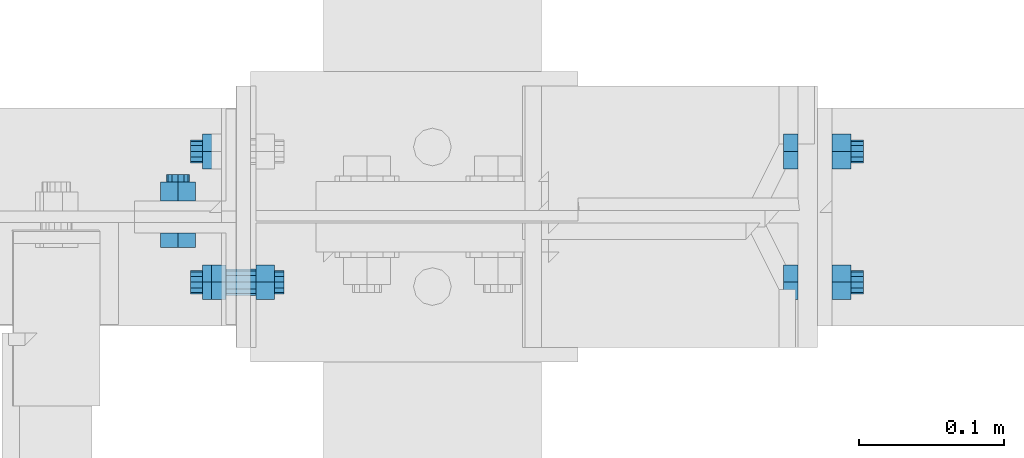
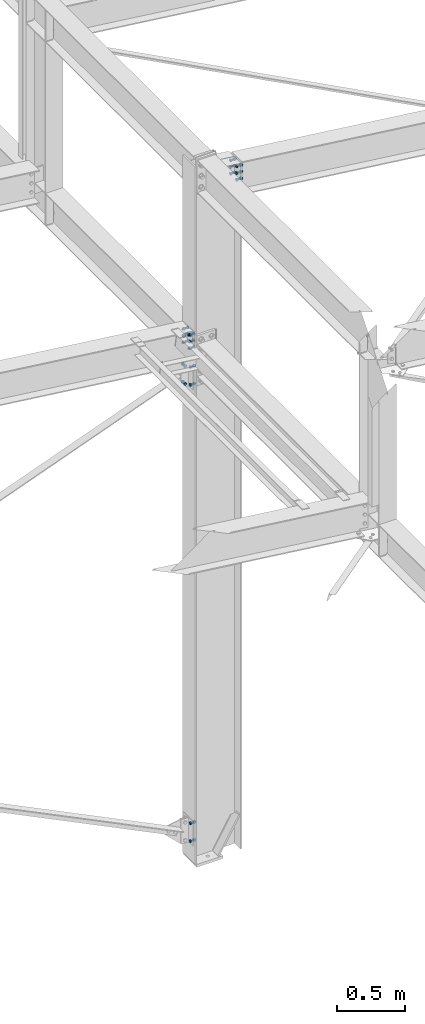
# One storey, part 130 of 3134: 5 mechanical fasteners, 4 elements without a shape of their own.
"""IFC2X3 building model written with IfcOpenShell, lengths in millimetres."""

from ifc_helpers import new_model, si_unit, frame, origin_with_axes, place, context, subcontext, project, spatial, faceted_brep, source, transform, mapped, material, type_object, element, aggregate, save


model = new_model("IFC2X3")

# Units and contexts
model_context = context("Model", 3, precision=1e-05, world=origin_with_axes())
body_context = subcontext(model_context, "Body", "Model", "MODEL_VIEW")
ifc_project = project(units=[si_unit("LENGTHUNIT", "METRE", prefix="MILLI"), si_unit("AREAUNIT", "SQUARE_METRE"), si_unit("VOLUMEUNIT", "CUBIC_METRE"), si_unit("MASSUNIT", "GRAM", prefix="KILO"), si_unit("TIMEUNIT", "SECOND"), si_unit("PLANEANGLEUNIT", "RADIAN"), si_unit("SOLIDANGLEUNIT", "STERADIAN"), si_unit("THERMODYNAMICTEMPERATUREUNIT", "DEGREE_CELSIUS"), si_unit("LUMINOUSINTENSITYUNIT", "LUMEN")], contexts=[model_context])

# Site, building, storey
site_placement = place(None, origin_with_axes())
site = spatial("IfcSite", under=ifc_project, at=site_placement, CompositionType="ELEMENT")
building_placement = place(site_placement, origin_with_axes())
building = spatial("IfcBuilding", under=site, at=building_placement, Name="Undefined", CompositionType="ELEMENT")
storey_placement = place(building_placement, origin_with_axes())
storey = spatial("IfcBuildingStorey", under=building, at=storey_placement, Name="Undefined", CompositionType="ELEMENT", Elevation=0.0)

# Assembly, mechanical fasteners
assembly_1_placement = place(storey_placement, origin_with_axes())
assembly_1 = element("IfcElementAssembly", 1, at=assembly_1_placement, inside=storey, Name="IPE400", AssemblyPlace="NOTDEFINED", PredefinedType="RIGID_FRAME")
ifc_material = material(Name="8.8")
mechanical_fastener_type = type_object("IfcMechanicalFastenerType", Name="Bolt assembly")
shared_shape_1 = source(origin_with_axes(), body_context, "Body", "Brep", [
    faceted_brep([(13.856406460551, -33.499999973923, 0.0), (6.92820323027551, -33.499999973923, 12.0), (-6.92820323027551, -33.499999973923, 12.0), (-13.856406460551, -33.499999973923, 1.69692038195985e-15), (-6.92820323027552, -33.499999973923, -12.0), (6.9282032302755, -33.499999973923, -12.0), (6.9282032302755, -23.499999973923, -12.0), (-6.92820323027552, -23.499999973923, -12.0), (-13.856406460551, -23.499999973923, 1.69692038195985e-15), (-6.92820323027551, -23.499999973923, 12.0), (6.92820323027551, -23.499999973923, 12.0), (13.856406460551, -23.499999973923, 0.0), (8.0, -23.499999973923, 0.0), (6.92820323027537, -23.499999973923, 4.00000000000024), (3.99999999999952, -23.499999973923, 6.92820323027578), (-8.29068785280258e-13, -23.499999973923, 8.0), (-4.00000000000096, -23.499999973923, 6.92820323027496), (-6.9282032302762, -23.499999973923, 3.99999999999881), (-8.0, -23.499999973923, -1.65813757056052e-12), (-6.92820323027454, -23.499999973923, -4.00000000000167), (-3.99999999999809, -23.499999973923, -6.92820323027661), (2.47832457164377e-12, -23.499999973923, -8.0), (4.00000000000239, -23.499999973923, -6.92820323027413), (6.92820323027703, -23.499999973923, -3.99999999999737), (6.92820323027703, 21.500000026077, -3.99999999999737), (4.00000000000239, 21.500000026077, -6.92820323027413), (2.47832457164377e-12, 21.500000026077, -8.0), (-3.99999999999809, 21.500000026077, -6.92820323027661), (-6.92820323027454, 21.500000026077, -4.00000000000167), (-8.0, 21.500000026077, -1.65813757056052e-12), (-6.9282032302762, 21.500000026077, 3.99999999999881), (-4.00000000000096, 21.500000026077, 6.92820323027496), (-8.29068785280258e-13, 21.500000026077, 8.0), (3.99999999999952, 21.500000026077, 6.92820323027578), (6.92820323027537, 21.500000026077, 4.00000000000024), (8.0, 21.500000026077, 0.0), (13.856406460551, 0.0, 0.0), (6.92820323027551, 0.0, 12.0), (-6.92820323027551, 0.0, 12.0), (-13.856406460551, 0.0, 1.69692038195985e-15), (-6.92820323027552, 0.0, -12.0), (6.9282032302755, 0.0, -12.0), (6.9282032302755, 12.9999996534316, -12.0), (-6.92820323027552, 12.9999996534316, -12.0), (-13.856406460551, 12.9999996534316, 1.69692038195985e-15), (-6.92820323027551, 12.9999996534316, 12.0), (6.92820323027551, 12.9999996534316, 12.0), (13.856406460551, 12.9999996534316, 0.0)], [[[0, 1, 2, 3, 4, 5]], [[6, 7, 8, 9, 10, 11]], [[0, 11, 10, 1]], [[1, 10, 9, 2]], [[2, 9, 8, 3]], [[3, 8, 7, 4]], [[4, 7, 6, 5]], [[5, 6, 11, 0]], [[12, 13, 14, 15, 16, 17, 18, 19, 20, 21, 22, 23]], [[24, 25, 26, 27, 28, 29, 30, 31, 32, 33, 34, 35]], [[12, 35, 34, 13]], [[13, 34, 33, 14]], [[14, 33, 32, 15]], [[15, 32, 31, 16]], [[16, 31, 30, 17]], [[17, 30, 29, 18]], [[18, 29, 28, 19]], [[19, 28, 27, 20]], [[20, 27, 26, 21]], [[21, 26, 25, 22]], [[22, 25, 24, 23]], [[23, 24, 35, 12]], [[36, 37, 38, 39, 40, 41]], [[42, 43, 44, 45, 46, 47]], [[36, 47, 46, 37]], [[37, 46, 45, 38]], [[38, 45, 44, 39]], [[39, 44, 43, 40]], [[40, 43, 42, 41]], [[41, 42, 47, 36]]]),
    faceted_brep([(9.0, -10.1000003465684, 0.0), (7.79422863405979, -10.1000003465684, 4.50000000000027), (4.49999999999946, -10.1000003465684, 7.79422863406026), (-9.3270238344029e-13, -10.1000003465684, 9.0), (-4.50000000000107, -10.1000003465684, 7.79422863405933), (-7.79422863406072, -10.1000003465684, 4.49999999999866), (-9.0, -10.1000003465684, -1.86540476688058e-12), (-7.79422863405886, -10.1000003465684, -4.50000000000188), (-4.49999999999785, -10.1000003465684, -7.79422863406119), (2.78811514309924e-12, -10.1000003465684, -9.0), (4.50000000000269, -10.1000003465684, -7.7942286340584), (7.79422863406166, -10.1000003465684, -4.49999999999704), (7.79422863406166, -3.46568413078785e-07, -4.49999999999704), (4.50000000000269, -3.46568413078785e-07, -7.7942286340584), (2.78811514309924e-12, -3.46568413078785e-07, -9.0), (-4.49999999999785, -3.46568413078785e-07, -7.79422863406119), (-7.79422863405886, -3.46568413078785e-07, -4.50000000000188), (-9.0, -3.46568413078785e-07, -1.86540476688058e-12), (-7.79422863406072, -3.46568413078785e-07, 4.49999999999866), (-4.50000000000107, -3.46568413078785e-07, 7.79422863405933), (-9.3270238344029e-13, -3.46568413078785e-07, 9.0), (4.49999999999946, -3.46568413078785e-07, 7.79422863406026), (7.79422863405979, -3.46568413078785e-07, 4.50000000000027), (9.0, -3.46568413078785e-07, 0.0), (9.0, -23.399999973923, 0.0), (7.79422863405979, -23.399999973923, 4.50000000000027), (4.49999999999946, -23.399999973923, 7.79422863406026), (-9.3270238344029e-13, -23.399999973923, 9.0), (-4.50000000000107, -23.399999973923, 7.79422863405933), (-7.79422863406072, -23.399999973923, 4.49999999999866), (-9.0, -23.399999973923, -1.86540476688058e-12), (-7.79422863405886, -23.399999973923, -4.50000000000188), (-4.49999999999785, -23.399999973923, -7.79422863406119), (2.78811514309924e-12, -23.399999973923, -9.0), (4.50000000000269, -23.399999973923, -7.7942286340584), (7.79422863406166, -23.399999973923, -4.49999999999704), (7.79422863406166, -9.89999997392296, -4.49999999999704), (4.50000000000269, -9.89999997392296, -7.7942286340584), (2.78811514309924e-12, -9.89999997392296, -9.0), (-4.49999999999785, -9.89999997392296, -7.79422863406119), (-7.79422863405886, -9.89999997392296, -4.50000000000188), (-9.0, -9.89999997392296, -1.86540476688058e-12), (-7.79422863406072, -9.89999997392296, 4.49999999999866), (-4.50000000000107, -9.89999997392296, 7.79422863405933), (-9.3270238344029e-13, -9.89999997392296, 9.0), (4.49999999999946, -9.89999997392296, 7.79422863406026), (7.79422863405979, -9.89999997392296, 4.50000000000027), (9.0, -9.89999997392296, 0.0)], [[[0, 1, 2, 3, 4, 5, 6, 7, 8, 9, 10, 11]], [[12, 13, 14, 15, 16, 17, 18, 19, 20, 21, 22, 23]], [[0, 23, 22, 1]], [[1, 22, 21, 2]], [[2, 21, 20, 3]], [[3, 20, 19, 4]], [[4, 19, 18, 5]], [[5, 18, 17, 6]], [[6, 17, 16, 7]], [[7, 16, 15, 8]], [[8, 15, 14, 9]], [[9, 14, 13, 10]], [[10, 13, 12, 11]], [[11, 12, 23, 0]], [[24, 25, 26, 27, 28, 29, 30, 31, 32, 33, 34, 35]], [[36, 37, 38, 39, 40, 41, 42, 43, 44, 45, 46, 47]], [[24, 47, 46, 25]], [[25, 46, 45, 26]], [[26, 45, 44, 27]], [[27, 44, 43, 28]], [[28, 43, 42, 29]], [[29, 42, 41, 30]], [[30, 41, 40, 31]], [[31, 40, 39, 32]], [[32, 39, 38, 33]], [[33, 38, 37, 34]], [[34, 37, 36, 35]], [[35, 36, 47, 24]]]),
])
mechanical_fastener_1_placement = place(assembly_1_placement, frame((55730.0000000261, 7650.0, 4360.7105303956), z_axis=(0.0, 1.0, 0.0), x_axis=(0.0, 0.0, -1.0)))
mechanical_fastener_1 = element("IfcMechanicalFastener", 2, at=mechanical_fastener_1_placement, type_object=mechanical_fastener_type, material=ifc_material, Name="Bolt assembly", NominalDiameter=16.0, NominalLength=45.0, context=body_context, shape_type="MappedRepresentation", body=[
    mapped(shared_shape_1, transform((0.0, 0.0, -45.0))),
    mapped(shared_shape_1, transform((60.0, 0.0, -45.0))),
    mapped(shared_shape_1, transform((120.0, 0.0, -45.0))),
    mapped(shared_shape_1, transform((0.0, 0.0, 45.0))),
    mapped(shared_shape_1, transform((60.0, 0.0, 45.0))),
    mapped(shared_shape_1, transform((120.0, 0.0, 45.0))),
])
mechanical_fastener_2_placement = place(assembly_1_placement, frame((56150.0000003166, 7650.0, 5615.41113578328), z_axis=(0.0, 1.0, 0.0), x_axis=(0.0, 0.0, 1.0)))
mechanical_fastener_2 = element("IfcMechanicalFastener", 3, at=mechanical_fastener_2_placement, type_object=mechanical_fastener_type, material=ifc_material, Name="Bolt assembly", NominalDiameter=16.0, NominalLength=45.0, context=body_context, shape_type="MappedRepresentation", body=[
    mapped(shared_shape_1, transform((0.0, 0.0, -45.0))),
    mapped(shared_shape_1, transform((60.0, 0.0, -45.0))),
    mapped(shared_shape_1, transform((120.0, 0.0, -45.0))),
    mapped(shared_shape_1, transform((0.0, 0.0, 45.0))),
    mapped(shared_shape_1, transform((60.0, 0.0, 45.0))),
    mapped(shared_shape_1, transform((120.0, 0.0, 45.0))),
])
aggregate(assembly_1, [mechanical_fastener_1, mechanical_fastener_2])

# Assembly, mechanical fastener
assembly_2_placement = place(storey_placement, origin_with_axes())
assembly_2 = element("IfcElementAssembly", 4, at=assembly_2_placement, inside=storey, Name="PL8", AssemblyPlace="NOTDEFINED", PredefinedType="RIGID_FRAME")
shared_shape_2 = source(origin_with_axes(), body_context, "Body", "Brep", [
    faceted_brep([(13.856406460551, -21.0000017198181, 0.0), (6.92820323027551, -21.0000017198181, 12.0), (-6.92820323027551, -21.0000017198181, 12.0), (-13.856406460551, -21.0000017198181, 1.69692038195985e-15), (-6.92820323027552, -21.0000017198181, -12.0), (6.9282032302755, -21.0000017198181, -12.0), (6.9282032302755, -11.0000017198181, -12.0), (-6.92820323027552, -11.0000017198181, -12.0), (-13.856406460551, -11.0000017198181, 1.69692038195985e-15), (-6.92820323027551, -11.0000017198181, 12.0), (6.92820323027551, -11.0000017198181, 12.0), (13.856406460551, -11.0000017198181, 0.0), (8.0, -11.0000017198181, 0.0), (6.92820323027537, -11.0000017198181, 4.00000000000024), (3.99999999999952, -11.0000017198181, 6.92820323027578), (-8.29068785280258e-13, -11.0000017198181, 8.0), (-4.00000000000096, -11.0000017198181, 6.92820323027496), (-6.9282032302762, -11.0000017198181, 3.99999999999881), (-8.0, -11.0000017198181, -1.65813757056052e-12), (-6.92820323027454, -11.0000017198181, -4.00000000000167), (-3.99999999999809, -11.0000017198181, -6.92820323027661), (2.47832457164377e-12, -11.0000017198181, -8.0), (4.00000000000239, -11.0000017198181, -6.92820323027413), (6.92820323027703, -11.0000017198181, -3.99999999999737), (6.92820323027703, 29.0, -3.99999999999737), (4.00000000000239, 29.0, -6.92820323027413), (2.47832457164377e-12, 29.0, -8.0), (-3.99999999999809, 29.0, -6.92820323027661), (-6.92820323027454, 29.0, -4.00000000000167), (-8.0, 29.0, -1.65813757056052e-12), (-6.9282032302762, 29.0, 3.99999999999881), (-4.00000000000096, 29.0, 6.92820323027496), (-8.29068785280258e-13, 29.0, 8.0), (3.99999999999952, 29.0, 6.92820323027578), (6.92820323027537, 29.0, 4.00000000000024), (8.0, 29.0, 0.0), (13.856406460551, 10.9999982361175, 0.0), (6.92820323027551, 10.9999982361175, 12.0), (-6.92820323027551, 10.9999982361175, 12.0), (-13.856406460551, 10.9999982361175, 1.69692038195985e-15), (-6.92820323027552, 10.9999982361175, -12.0), (6.9282032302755, 10.9999982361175, -12.0), (6.9282032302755, 23.9999999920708, -12.0), (-6.92820323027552, 23.9999999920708, -12.0), (-13.856406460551, 23.9999999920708, 1.69692038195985e-15), (-6.92820323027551, 23.9999999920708, 12.0), (6.92820323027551, 23.9999999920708, 12.0), (13.856406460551, 23.9999999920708, 0.0)], [[[0, 1, 2, 3, 4, 5]], [[6, 7, 8, 9, 10, 11]], [[0, 11, 10, 1]], [[1, 10, 9, 2]], [[2, 9, 8, 3]], [[3, 8, 7, 4]], [[4, 7, 6, 5]], [[5, 6, 11, 0]], [[12, 13, 14, 15, 16, 17, 18, 19, 20, 21, 22, 23]], [[24, 25, 26, 27, 28, 29, 30, 31, 32, 33, 34, 35]], [[12, 35, 34, 13]], [[13, 34, 33, 14]], [[14, 33, 32, 15]], [[15, 32, 31, 16]], [[16, 31, 30, 17]], [[17, 30, 29, 18]], [[18, 29, 28, 19]], [[19, 28, 27, 20]], [[20, 27, 26, 21]], [[21, 26, 25, 22]], [[22, 25, 24, 23]], [[23, 24, 35, 12]], [[36, 37, 38, 39, 40, 41]], [[42, 43, 44, 45, 46, 47]], [[36, 47, 46, 37]], [[37, 46, 45, 38]], [[38, 45, 44, 39]], [[39, 44, 43, 40]], [[40, 43, 42, 41]], [[41, 42, 47, 36]]]),
    faceted_brep([(9.0, -10.9000017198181, 0.0), (7.79422863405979, -10.9000017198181, 4.50000000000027), (4.49999999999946, -10.9000017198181, 7.79422863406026), (-9.3270238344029e-13, -10.9000017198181, 9.0), (-4.50000000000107, -10.9000017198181, 7.79422863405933), (-7.79422863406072, -10.9000017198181, 4.49999999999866), (-9.0, -10.9000017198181, -1.86540476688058e-12), (-7.79422863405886, -10.9000017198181, -4.50000000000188), (-4.49999999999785, -10.9000017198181, -7.79422863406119), (2.78811514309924e-12, -10.9000017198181, -9.0), (4.50000000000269, -10.9000017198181, -7.7942286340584), (7.79422863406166, -10.9000017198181, -4.49999999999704), (7.79422863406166, -3.9, -4.49999999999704), (4.50000000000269, -3.9, -7.7942286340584), (2.78811514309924e-12, -3.9, -9.0), (-4.49999999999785, -3.9, -7.79422863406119), (-7.79422863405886, -3.9, -4.50000000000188), (-9.0, -3.9, -1.86540476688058e-12), (-7.79422863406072, -3.9, 4.49999999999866), (-4.50000000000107, -3.9, 7.79422863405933), (-9.3270238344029e-13, -3.9, 9.0), (4.49999999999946, -3.9, 7.79422863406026), (7.79422863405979, -3.9, 4.50000000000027), (9.0, -3.9, 0.0), (9.0, -3.99999624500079, 0.0), (7.79422863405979, -3.99999624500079, 4.50000000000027), (4.49999999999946, -3.99999624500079, 7.79422863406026), (-9.3270238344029e-13, -3.99999624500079, 9.0), (-4.50000000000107, -3.99999624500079, 7.79422863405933), (-7.79422863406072, -3.99999624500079, 4.49999999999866), (-9.0, -3.99999624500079, -1.86540476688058e-12), (-7.79422863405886, -3.99999624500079, -4.50000000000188), (-4.49999999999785, -3.99999624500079, -7.79422863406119), (2.78811514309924e-12, -3.99999624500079, -9.0), (4.50000000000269, -3.99999624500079, -7.7942286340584), (7.79422863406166, -3.99999624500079, -4.49999999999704), (7.79422863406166, 4.00000375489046, -4.49999999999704), (4.50000000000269, 4.00000375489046, -7.7942286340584), (2.78811514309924e-12, 4.00000375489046, -9.0), (-4.49999999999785, 4.00000375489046, -7.79422863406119), (-7.79422863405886, 4.00000375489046, -4.50000000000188), (-9.0, 4.00000375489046, -1.86540476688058e-12), (-7.79422863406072, 4.00000375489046, 4.49999999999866), (-4.50000000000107, 4.00000375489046, 7.79422863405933), (-9.3270238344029e-13, 4.00000375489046, 9.0), (4.49999999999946, 4.00000375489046, 7.79422863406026), (7.79422863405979, 4.00000375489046, 4.50000000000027), (9.0, 4.00000375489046, 0.0), (9.0, 3.9, 0.0), (7.79422863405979, 3.9, 4.50000000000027), (4.49999999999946, 3.9, 7.79422863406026), (-9.3270238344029e-13, 3.9, 9.0), (-4.50000000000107, 3.9, 7.79422863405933), (-7.79422863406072, 3.9, 4.49999999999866), (-9.0, 3.9, -1.86540476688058e-12), (-7.79422863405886, 3.9, -4.50000000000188), (-4.49999999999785, 3.9, -7.79422863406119), (2.78811514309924e-12, 3.9, -9.0), (4.50000000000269, 3.9, -7.7942286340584), (7.79422863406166, 3.9, -4.49999999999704), (7.79422863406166, 10.9999982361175, -4.49999999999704), (4.50000000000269, 10.9999982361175, -7.7942286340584), (2.78811514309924e-12, 10.9999982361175, -9.0), (-4.49999999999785, 10.9999982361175, -7.79422863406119), (-7.79422863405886, 10.9999982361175, -4.50000000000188), (-9.0, 10.9999982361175, -1.86540476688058e-12), (-7.79422863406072, 10.9999982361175, 4.49999999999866), (-4.50000000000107, 10.9999982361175, 7.79422863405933), (-9.3270238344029e-13, 10.9999982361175, 9.0), (4.49999999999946, 10.9999982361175, 7.79422863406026), (7.79422863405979, 10.9999982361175, 4.50000000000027), (9.0, 10.9999982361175, 0.0)], [[[0, 1, 2, 3, 4, 5, 6, 7, 8, 9, 10, 11]], [[12, 13, 14, 15, 16, 17, 18, 19, 20, 21, 22, 23]], [[0, 23, 22, 1]], [[1, 22, 21, 2]], [[2, 21, 20, 3]], [[3, 20, 19, 4]], [[4, 19, 18, 5]], [[5, 18, 17, 6]], [[6, 17, 16, 7]], [[7, 16, 15, 8]], [[8, 15, 14, 9]], [[9, 14, 13, 10]], [[10, 13, 12, 11]], [[11, 12, 23, 0]], [[24, 25, 26, 27, 28, 29, 30, 31, 32, 33, 34, 35]], [[36, 37, 38, 39, 40, 41, 42, 43, 44, 45, 46, 47]], [[24, 47, 46, 25]], [[25, 46, 45, 26]], [[26, 45, 44, 27]], [[27, 44, 43, 28]], [[28, 43, 42, 29]], [[29, 42, 41, 30]], [[30, 41, 40, 31]], [[31, 40, 39, 32]], [[32, 39, 38, 33]], [[33, 38, 37, 34]], [[34, 37, 36, 35]], [[35, 36, 47, 24]], [[48, 49, 50, 51, 52, 53, 54, 55, 56, 57, 58, 59]], [[60, 61, 62, 63, 64, 65, 66, 67, 68, 69, 70, 71]], [[48, 71, 70, 49]], [[49, 70, 69, 50]], [[50, 69, 68, 51]], [[51, 68, 67, 52]], [[52, 67, 66, 53]], [[53, 66, 65, 54]], [[54, 65, 64, 55]], [[55, 64, 63, 56]], [[56, 63, 62, 57]], [[57, 62, 61, 58]], [[58, 61, 60, 59]], [[59, 60, 71, 48]]]),
])
mechanical_fastener_3_placement = place(assembly_2_placement, frame((55699.9999999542, 7650.0, 4070.28192102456), z_axis=(1.0, 0.0, 0.0), x_axis=(0.0, 0.0, -1.0)))
mechanical_fastener_3 = element("IfcMechanicalFastener", 5, at=mechanical_fastener_3_placement, type_object=mechanical_fastener_type, material=ifc_material, Name="Bolt assembly", NominalDiameter=16.0, NominalLength=40.0, context=body_context, shape_type="MappedRepresentation", body=[
    mapped(shared_shape_2, transform((0.0, 0.0, 0.0))),
    mapped(shared_shape_2, transform((160.0, 0.0, 0.0))),
])
aggregate(assembly_2, [mechanical_fastener_3])

assembly_3_placement = place(storey_placement, origin_with_axes())
assembly_3 = element("IfcElementAssembly", 6, at=assembly_3_placement, inside=storey, AssemblyPlace="NOTDEFINED", PredefinedType="RIGID_FRAME")
shared_shape_3 = source(origin_with_axes(), body_context, "Body", "Brep", [
    faceted_brep([(13.856406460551, -16.999999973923, 0.0), (6.92820323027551, -16.999999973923, 12.0), (-6.92820323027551, -16.999999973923, 12.0), (-13.856406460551, -16.999999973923, 1.69692038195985e-15), (-6.92820323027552, -16.999999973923, -12.0), (6.9282032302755, -16.999999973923, -12.0), (6.9282032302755, -7.0, -12.0), (-6.92820323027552, -7.0, -12.0), (-13.856406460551, -7.0, 1.69692038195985e-15), (-6.92820323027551, -7.0, 12.0), (6.92820323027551, -7.0, 12.0), (13.856406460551, -7.0, 0.0), (8.0, -7.0, 0.0), (6.92820323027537, -7.0, 4.00000000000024), (3.99999999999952, -7.0, 6.92820323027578), (-8.29068785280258e-13, -7.0, 8.0), (-4.00000000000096, -7.0, 6.92820323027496), (-6.9282032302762, -7.0, 3.99999999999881), (-8.0, -7.0, -1.65813757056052e-12), (-6.92820323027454, -7.0, -4.00000000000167), (-3.99999999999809, -7.0, -6.92820323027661), (2.47832457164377e-12, -7.0, -8.0), (4.00000000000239, -7.0, -6.92820323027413), (6.92820323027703, -7.0, -3.99999999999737), (6.92820323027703, 33.0, -3.99999999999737), (4.00000000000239, 33.0, -6.92820323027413), (2.47832457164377e-12, 33.0, -8.0), (-3.99999999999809, 33.0, -6.92820323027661), (-6.92820323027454, 33.0, -4.00000000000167), (-8.0, 33.0, -1.65813757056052e-12), (-6.9282032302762, 33.0, 3.99999999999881), (-4.00000000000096, 33.0, 6.92820323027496), (-8.29068785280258e-13, 33.0, 8.0), (3.99999999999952, 33.0, 6.92820323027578), (6.92820323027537, 33.0, 4.00000000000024), (8.0, 33.0, 0.0), (13.856406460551, 13.5000000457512, 0.0), (6.92820323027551, 13.5000000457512, 12.0), (-6.92820323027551, 13.5000000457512, 12.0), (-13.856406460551, 13.5000000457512, 1.69692038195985e-15), (-6.92820323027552, 13.5000000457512, -12.0), (6.9282032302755, 13.5000000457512, -12.0), (6.9282032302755, 26.5000000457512, -12.0), (-6.92820323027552, 26.5000000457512, -12.0), (-13.856406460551, 26.5000000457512, 1.69692038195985e-15), (-6.92820323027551, 26.5000000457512, 12.0), (6.92820323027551, 26.5000000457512, 12.0), (13.856406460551, 26.5000000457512, 0.0)], [[[0, 1, 2, 3, 4, 5]], [[6, 7, 8, 9, 10, 11]], [[0, 11, 10, 1]], [[1, 10, 9, 2]], [[2, 9, 8, 3]], [[3, 8, 7, 4]], [[4, 7, 6, 5]], [[5, 6, 11, 0]], [[12, 13, 14, 15, 16, 17, 18, 19, 20, 21, 22, 23]], [[24, 25, 26, 27, 28, 29, 30, 31, 32, 33, 34, 35]], [[12, 35, 34, 13]], [[13, 34, 33, 14]], [[14, 33, 32, 15]], [[15, 32, 31, 16]], [[16, 31, 30, 17]], [[17, 30, 29, 18]], [[18, 29, 28, 19]], [[19, 28, 27, 20]], [[20, 27, 26, 21]], [[21, 26, 25, 22]], [[22, 25, 24, 23]], [[23, 24, 35, 12]], [[36, 37, 38, 39, 40, 41]], [[42, 43, 44, 45, 46, 47]], [[36, 47, 46, 37]], [[37, 46, 45, 38]], [[38, 45, 44, 39]], [[39, 44, 43, 40]], [[40, 43, 42, 41]], [[41, 42, 47, 36]]]),
    faceted_brep([(9.0, -0.1, 0.0), (7.79422863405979, -0.1, 4.50000000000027), (4.49999999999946, -0.1, 7.79422863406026), (-9.3270238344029e-13, -0.1, 9.0), (-4.50000000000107, -0.1, 7.79422863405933), (-7.79422863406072, -0.1, 4.49999999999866), (-9.0, -0.1, -1.86540476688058e-12), (-7.79422863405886, -0.1, -4.50000000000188), (-4.49999999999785, -0.1, -7.79422863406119), (2.78811514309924e-12, -0.1, -9.0), (4.50000000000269, -0.1, -7.7942286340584), (7.79422863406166, -0.1, -4.49999999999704), (7.79422863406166, 13.5000000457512, -4.49999999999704), (4.50000000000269, 13.5000000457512, -7.7942286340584), (2.78811514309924e-12, 13.5000000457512, -9.0), (-4.49999999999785, 13.5000000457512, -7.79422863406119), (-7.79422863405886, 13.5000000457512, -4.50000000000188), (-9.0, 13.5000000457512, -1.86540476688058e-12), (-7.79422863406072, 13.5000000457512, 4.49999999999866), (-4.50000000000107, 13.5000000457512, 7.79422863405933), (-9.3270238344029e-13, 13.5000000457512, 9.0), (4.49999999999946, 13.5000000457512, 7.79422863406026), (7.79422863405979, 13.5000000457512, 4.50000000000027), (9.0, 13.5000000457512, 0.0), (9.0, -6.89999997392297, 0.0), (7.79422863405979, -6.89999997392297, 4.50000000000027), (4.49999999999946, -6.89999997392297, 7.79422863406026), (-9.3270238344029e-13, -6.89999997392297, 9.0), (-4.50000000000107, -6.89999997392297, 7.79422863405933), (-7.79422863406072, -6.89999997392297, 4.49999999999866), (-9.0, -6.89999997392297, -1.86540476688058e-12), (-7.79422863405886, -6.89999997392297, -4.50000000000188), (-4.49999999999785, -6.89999997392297, -7.79422863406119), (2.78811514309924e-12, -6.89999997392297, -9.0), (4.50000000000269, -6.89999997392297, -7.7942286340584), (7.79422863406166, -6.89999997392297, -4.49999999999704), (7.79422863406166, 0.100000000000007, -4.49999999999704), (4.50000000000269, 0.100000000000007, -7.7942286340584), (2.78811514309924e-12, 0.100000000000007, -9.0), (-4.49999999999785, 0.100000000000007, -7.79422863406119), (-7.79422863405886, 0.100000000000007, -4.50000000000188), (-9.0, 0.100000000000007, -1.86540476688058e-12), (-7.79422863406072, 0.100000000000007, 4.49999999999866), (-4.50000000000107, 0.100000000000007, 7.79422863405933), (-9.3270238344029e-13, 0.100000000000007, 9.0), (4.49999999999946, 0.100000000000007, 7.79422863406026), (7.79422863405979, 0.100000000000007, 4.50000000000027), (9.0, 0.100000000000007, 0.0)], [[[0, 1, 2, 3, 4, 5, 6, 7, 8, 9, 10, 11]], [[12, 13, 14, 15, 16, 17, 18, 19, 20, 21, 22, 23]], [[0, 23, 22, 1]], [[1, 22, 21, 2]], [[2, 21, 20, 3]], [[3, 20, 19, 4]], [[4, 19, 18, 5]], [[5, 18, 17, 6]], [[6, 17, 16, 7]], [[7, 16, 15, 8]], [[8, 15, 14, 9]], [[9, 14, 13, 10]], [[10, 13, 12, 11]], [[11, 12, 23, 0]], [[24, 25, 26, 27, 28, 29, 30, 31, 32, 33, 34, 35]], [[36, 37, 38, 39, 40, 41, 42, 43, 44, 45, 46, 47]], [[24, 47, 46, 25]], [[25, 46, 45, 26]], [[26, 45, 44, 27]], [[27, 44, 43, 28]], [[28, 43, 42, 29]], [[29, 42, 41, 30]], [[30, 41, 40, 31]], [[31, 40, 39, 32]], [[32, 39, 38, 33]], [[33, 38, 37, 34]], [[34, 37, 36, 35]], [[35, 36, 47, 24]]]),
])
mechanical_fastener_4_placement = place(assembly_3_placement, frame((55739.9999999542, 7650.0, -29.9980790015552), z_axis=(0.0, -1.0, 0.0), x_axis=(0.0, 0.0, -1.0)))
mechanical_fastener_4 = element("IfcMechanicalFastener", 7, at=mechanical_fastener_4_placement, type_object=mechanical_fastener_type, material=ifc_material, Name="Bolt assembly", NominalDiameter=16.0, NominalLength=40.0, context=body_context, shape_type="MappedRepresentation", body=[
    mapped(shared_shape_3, transform((0.0, 0.0, 45.0))),
    mapped(shared_shape_3, transform((160.0, 0.0, 45.0))),
])
aggregate(assembly_3, [mechanical_fastener_4])

assembly_4_placement = place(storey_placement, origin_with_axes())
assembly_4 = element("IfcElementAssembly", 8, at=assembly_4_placement, inside=storey, AssemblyPlace="NOTDEFINED", PredefinedType="RIGID_FRAME")
mechanical_fastener_5_placement = place(assembly_4_placement, frame((55739.9999999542, 7650.0, 4070.28192099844), z_axis=(0.0, -1.0, 0.0), x_axis=(0.0, 0.0, -1.0)))
mechanical_fastener_5 = element("IfcMechanicalFastener", 9, at=mechanical_fastener_5_placement, type_object=mechanical_fastener_type, material=ifc_material, Name="Bolt assembly", NominalDiameter=16.0, NominalLength=40.0, context=body_context, shape_type="MappedRepresentation", body=[
    mapped(shared_shape_3, transform((0.0, 0.0, 45.0))),
    mapped(shared_shape_3, transform((160.0, 0.0, 45.0))),
])
aggregate(assembly_4, [mechanical_fastener_5])

save(model, "model.ifc")
